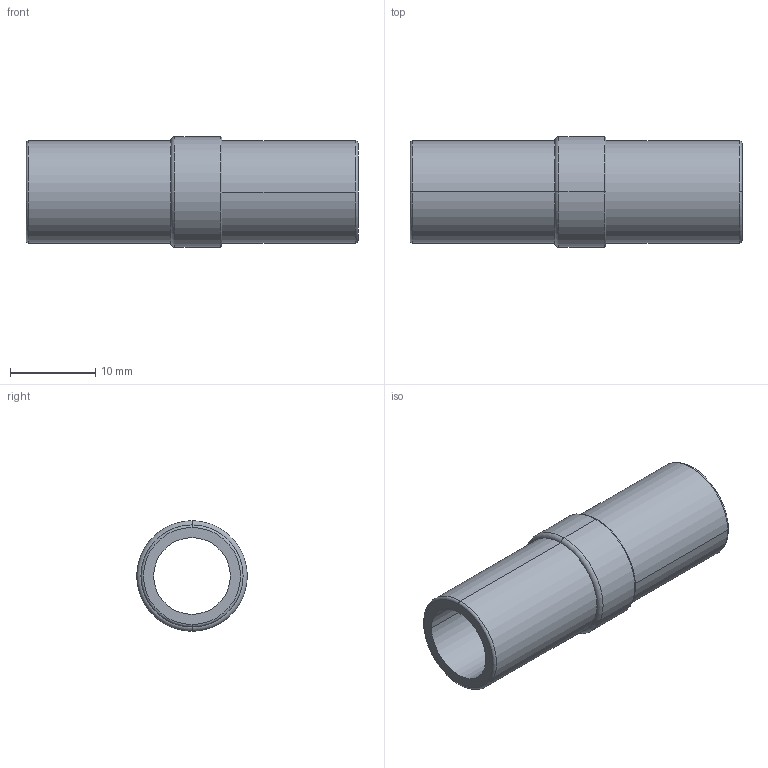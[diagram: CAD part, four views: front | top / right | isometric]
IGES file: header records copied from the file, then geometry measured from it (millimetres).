
Global section: file name: No Iges File Name specified; native system: AutoDesk Inventor R11.0; preprocessor: AutoDesk Inventor Iges Exporter R11.0; author: No Author specified; organization: No Organization specified; date: 20120321.163636; units: millimetre
Bounding box: 39 x 13 x 13 mm (x, y, z)
Volume: 2043.6 mm3; surface area: 2707.9 mm2
Topology: 1 solids, 1 shells, 19 faces, 42 edges, 26 vertices
Faces by surface type: torus 8, cylinder 6, plane 3, revolution 2
